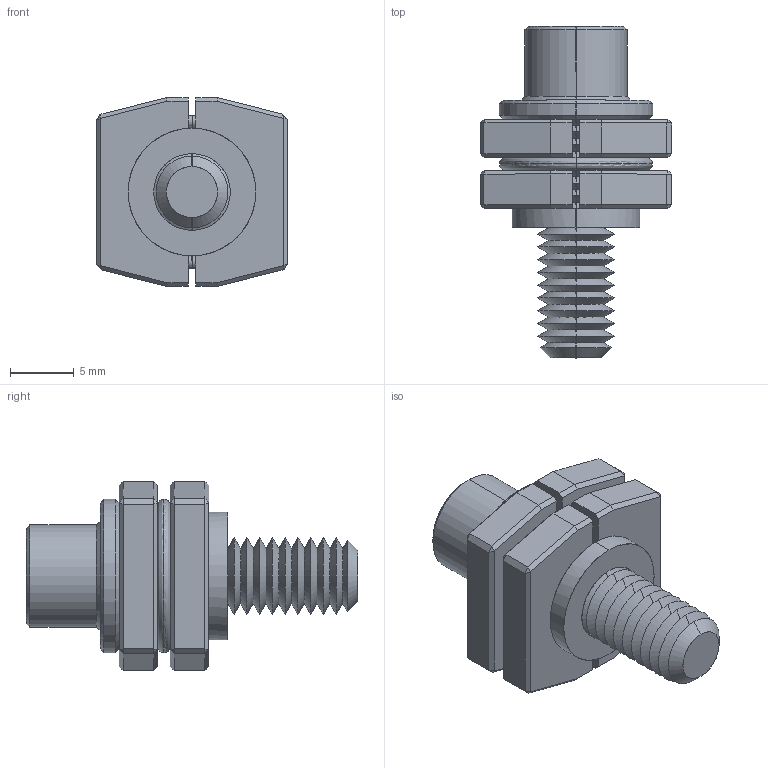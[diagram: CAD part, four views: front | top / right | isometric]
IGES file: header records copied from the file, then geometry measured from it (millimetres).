
Start section: SolidWorks IGES file using analytic representation for surfaces
Global section: file name: C:\Users\liam_\OneDrive\Documents\WORK\Work for WixRoyd\Job Files\J-00025 - Matt Davis CAD - 20191106\04. CAD Drawings\Wixroyd20191106\12454_v2\12454_v2_20191115_IGES\12454.W001B.igs; native system: SolidWorks 2017; preprocessor: SolidWorks 2017; author: liam_; date: 191115.170756; units: millimetre
Bounding box: 15 x 26 x 14.8 mm (x, y, z)
Surface area: 2361.4 mm2 (no closed solid volume)
Topology: 0 solids, 0 shells, 221 faces, 1362 edges, 1360 vertices
Faces by surface type: bspline 127, revolution 94
